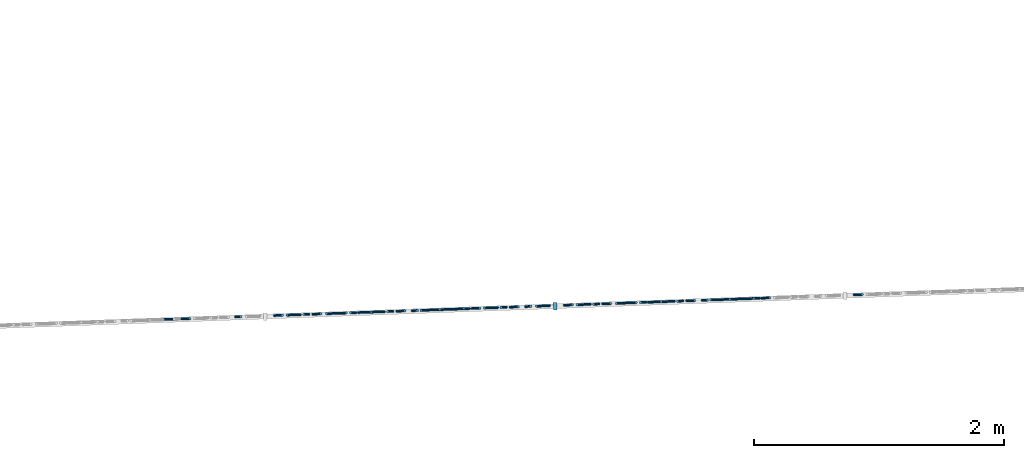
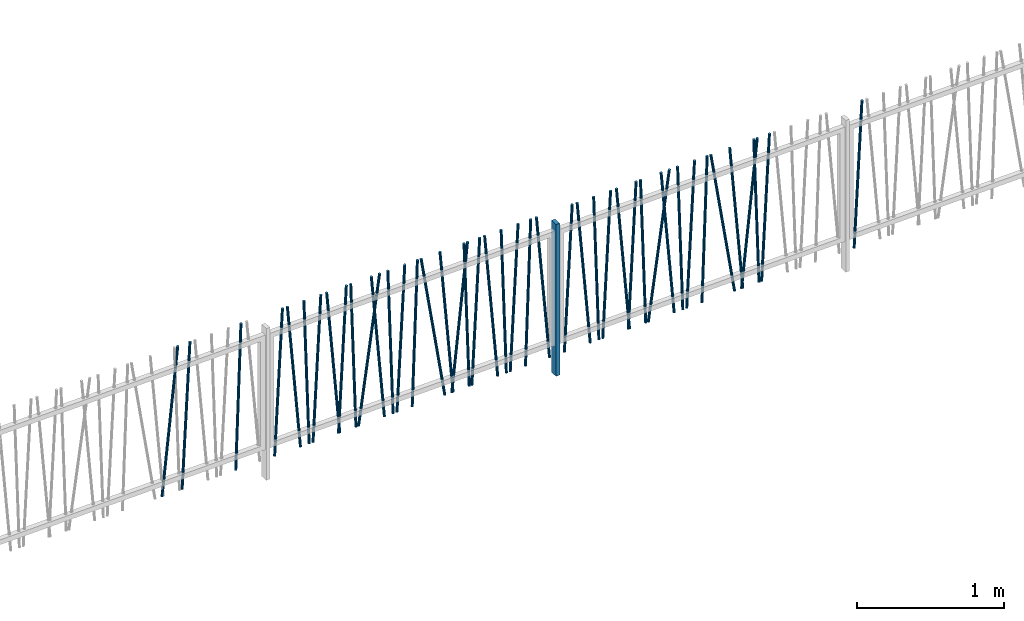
# One storey, part 7 of 171: 44 columns.
"""IFC2X3 building model written with IfcOpenShell, lengths in millimetres."""

from ifc_helpers import new_model, entity, si_unit, converted_unit, derived_unit, money_unit, direction, frame, origin_with_axes, origin_2d_with_axis, place, context, subcontext, project, spatial, rectangle, circle, extrude, clip, halfspace, material, type_object, element, save


model = new_model("IFC2X3")

# Units and contexts
model_context = context("Model", 3, precision=0.01, world=origin_with_axes(), true_north=direction((0.0, 1.0)))
body_context = subcontext(model_context, "Body", "Model", "MODEL_VIEW")
ifc_project = project(units=[si_unit("LENGTHUNIT", "METRE", prefix="MILLI"), si_unit("AREAUNIT", "SQUARE_METRE"), si_unit("VOLUMEUNIT", "CUBIC_METRE"), converted_unit("PLANEANGLEUNIT", "DEGREE", entity("IfcPlaneAngleMeasure", 0.0174532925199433), si_unit("PLANEANGLEUNIT", "RADIAN"), dimensions=[0, 0, 0, 0, 0, 0, 0]), money_unit("USD"), converted_unit("TIMEUNIT", "Year", entity("IfcTimeMeasure", 31557600.0), si_unit("TIMEUNIT", "SECOND"), dimensions=[0, 0, 1, 0, 0, 0, 0]), si_unit("MASSUNIT", "GRAM", prefix="KILO"), si_unit("THERMODYNAMICTEMPERATUREUNIT", "DEGREE_CELSIUS"), si_unit("LUMINOUSINTENSITYUNIT", "LUMEN"), si_unit("ENERGYUNIT", "JOULE", prefix="MEGA"), derived_unit("THERMALCONDUCTANCEUNIT", [(si_unit("POWERUNIT", "WATT"), 1), (si_unit("LENGTHUNIT", "METRE"), -1), (si_unit("THERMODYNAMICTEMPERATUREUNIT", "KELVIN"), -1)]), derived_unit("SPECIFICHEATCAPACITYUNIT", [(si_unit("ENERGYUNIT", "JOULE"), 1), (si_unit("MASSUNIT", "GRAM", prefix="KILO"), -1), (si_unit("THERMODYNAMICTEMPERATUREUNIT", "KELVIN"), -1)]), derived_unit("MASSDENSITYUNIT", [(si_unit("MASSUNIT", "GRAM", prefix="KILO"), 1), (si_unit("VOLUMEUNIT", "CUBIC_METRE"), -1)])], contexts=[model_context])

# Site, building, storey
site_placement = place(None, origin_with_axes())
site = spatial("IfcSite", under=ifc_project, at=site_placement, Name="Site", CompositionType="ELEMENT")
building_placement = place(site_placement, origin_with_axes())
building = spatial("IfcBuilding", under=site, at=building_placement, Name="Bâtiment", CompositionType="ELEMENT")
storey_placement = place(building_placement, frame((0.0, 0.0, 3000.0), z_axis=(0.0, 0.0, 1.0), x_axis=(1.0, 0.0, 0.0)))
storey = spatial("IfcBuildingStorey", under=building, at=storey_placement, Name="rdc", CompositionType="ELEMENT", Elevation=3000.0)

# Columns
ifc_material = material(Name="Empty Fill 2959611567")
column_type_1 = type_object("IfcColumnType", Name="Empty Fill 2959611567 D20", PredefinedType="NOTDEFINED")
for number, where, z_axis, x_axis, name in (
    (1, (2239512.348801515, -667343.6094439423, -1950.0), (0.0, 0.0, 1.0), (0.03567989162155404, -0.9993632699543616, 0.0), "Pilier-019"),
    (2, (2238770.654105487, -667370.0898912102, -1950.0), (0.0, 0.0, 1.0), (0.03567989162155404, -0.9993632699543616, 0.0), "Pilier-019"),
):
    element("IfcColumn", number, at=place(storey_placement, frame(where, z_axis=z_axis, x_axis=x_axis)), inside=storey, type_object=column_type_1, material=ifc_material, Name=name, context=body_context, shape_type="Clipping", body=[
        clip(clip(extrude(circle(Radius=10.0, at=origin_2d_with_axis()), frame((0.0, -0.05485622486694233, -1.046719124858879), z_axis=(0.0, -0.05233595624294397, -0.9986295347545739), x_axis=(-1.0, 0.0, 0.0)), (0.0, 0.0, -1.0), 1203.743126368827), halfspace(frame((0.0, 0.0, 0.0), z_axis=(0.0, 0.0, 1.0), x_axis=(0.0, -1.0, 0.0)), True)), halfspace(frame((0.0, 0.0, 1200.0), z_axis=(0.0, 0.0, -1.0), x_axis=(0.0, 1.0, 0.0)), True)),
    ])
column_1_placement = place(storey_placement, frame((2238749.533185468, -667370.843963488, -1950.0), z_axis=(0.0, 0.0, 1.0), x_axis=(-0.03567989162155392, 0.9993632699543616, 0.0)))
element("IfcColumn", 3, at=column_1_placement, inside=storey, type_object=column_type_1, material=ifc_material, Name="Pilier-019", context=body_context, shape_type="Clipping", body=[
    clip(clip(extrude(circle(Radius=10.0, at=origin_2d_with_axis()), frame((0.0, -0.02437434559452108, -0.6979899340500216), z_axis=(0.0, 0.03489949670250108, 0.9993908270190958), x_axis=(1.0, 0.0, 0.0)), (0.0, 0.0, 1.0), 1202.128283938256), halfspace(frame((0.0, 0.0, 0.0), z_axis=(0.0, 0.0, 1.0), x_axis=(0.0, -1.0, 0.0)), True)), halfspace(frame((0.0, 0.0, 1200.0), z_axis=(0.0, 0.0, -1.0), x_axis=(0.0, 1.0, 0.0)), True)),
])
column_2_placement = place(storey_placement, frame((2238609.804605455, -667375.8326405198, -1950.0), z_axis=(0.0, 0.0, 1.0), x_axis=(0.03567989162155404, -0.9993632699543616, 0.0)))
element("IfcColumn", 4, at=column_2_placement, inside=storey, type_object=column_type_1, material=ifc_material, Name="Pilier-019", context=body_context, shape_type="Clipping", body=[
    clip(clip(extrude(circle(Radius=10.0, at=origin_2d_with_axis()), frame((0.0, -0.2197276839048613, -2.090569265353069), z_axis=(0.0, -0.1045284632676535, -0.9945218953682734), x_axis=(-1.0, 0.0, 0.0)), (0.0, 0.0, -1.0), 1210.814104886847), halfspace(frame((0.0, 0.0, 0.0), z_axis=(0.0, 0.0, 1.0), x_axis=(0.0, -1.0, 0.0)), True)), halfspace(frame((0.0, 0.0, 1200.0), z_axis=(0.0, 0.0, -1.0), x_axis=(0.0, 1.0, 0.0)), True)),
])
column_3_placement = place(storey_placement, frame((2237862.367878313, -667402.5180933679, -1950.0), z_axis=(0.0, 0.0, 1.0), x_axis=(0.03567989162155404, -0.9993632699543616, 0.0)))
element("IfcColumn", 5, at=column_3_placement, inside=storey, type_object=column_type_1, material=ifc_material, Name="Pilier-019", context=body_context, shape_type="Clipping", body=[
    clip(clip(extrude(circle(Radius=10.0, at=origin_2d_with_axis()), frame((0.0, -0.3911900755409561, -2.78346201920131), z_axis=(0.0, -0.1391731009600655, -0.9902680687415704), x_axis=(-1.0, 0.0, 0.0)), (0.0, 0.0, -1.0), 1217.414720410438), halfspace(frame((0.0, 0.0, 0.0), z_axis=(0.0, 0.0, 1.0), x_axis=(0.0, -1.0, 0.0)), True)), halfspace(frame((0.0, 0.0, 1200.0), z_axis=(0.0, 0.0, -1.0), x_axis=(0.0, 1.0, 0.0)), True)),
])
column_4_placement = place(storey_placement, frame((2238069.376391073, -667395.127346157, -1950.0), z_axis=(0.0, 0.0, 1.0), x_axis=(-0.03567989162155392, 0.9993632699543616, 0.0)))
element("IfcColumn", 6, at=column_4_placement, inside=storey, type_object=column_type_1, material=ifc_material, Name="Pilier-019", context=body_context, shape_type="Clipping", body=[
    clip(clip(extrude(circle(Radius=10.0, at=origin_2d_with_axis()), frame((0.0, -0.152502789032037, -1.743114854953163), z_axis=(0.0, 0.08715574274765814, 0.9961946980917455), x_axis=(1.0, 0.0, 0.0)), (0.0, 0.0, 1.0), 1208.083351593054), halfspace(frame((0.0, 0.0, 0.0), z_axis=(0.0, 0.0, 1.0), x_axis=(0.0, -1.0, 0.0)), True)), halfspace(frame((0.0, 0.0, 1200.0), z_axis=(0.0, 0.0, -1.0), x_axis=(0.0, 1.0, 0.0)), True)),
])
column_5_placement = place(storey_placement, frame((2237465.789511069, -667416.6769819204, -1950.0), z_axis=(0.0, 0.0, 1.0), x_axis=(-0.03567989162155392, 0.9993632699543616, 0.0)))
element("IfcColumn", 7, at=column_5_placement, inside=storey, type_object=column_type_1, material=ifc_material, Name="Pilier-019", context=body_context, shape_type="Clipping", body=[
    clip(clip(extrude(circle(Radius=10.0, at=origin_2d_with_axis()), frame((0.0, -0.02437434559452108, -0.6979899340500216), z_axis=(0.0, 0.03489949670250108, 0.9993908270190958), x_axis=(1.0, 0.0, 0.0)), (0.0, 0.0, 1.0), 1202.128283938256), halfspace(frame((0.0, 0.0, 0.0), z_axis=(0.0, 0.0, 1.0), x_axis=(0.0, -1.0, 0.0)), True)), halfspace(frame((0.0, 0.0, 1200.0), z_axis=(0.0, 0.0, -1.0), x_axis=(0.0, 1.0, 0.0)), True)),
])
column_6_placement = place(storey_placement, frame((2237711.416712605, -667407.9074461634, -1950.0), z_axis=(0.0, 0.0, 1.0), x_axis=(-0.03567989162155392, 0.9993632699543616, 0.0)))
element("IfcColumn", 8, at=column_6_placement, inside=storey, type_object=column_type_1, material=ifc_material, Name="Pilier-019", context=body_context, shape_type="Clipping", body=[
    clip(clip(extrude(circle(Radius=10.0, at=origin_2d_with_axis()), frame((0.0, -0.152502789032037, -1.743114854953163), z_axis=(0.0, 0.08715574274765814, 0.9961946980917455), x_axis=(1.0, 0.0, 0.0)), (0.0, 0.0, 1.0), 1208.083351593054), halfspace(frame((0.0, 0.0, 0.0), z_axis=(0.0, 0.0, 1.0), x_axis=(0.0, -1.0, 0.0)), True)), halfspace(frame((0.0, 0.0, 1200.0), z_axis=(0.0, 0.0, -1.0), x_axis=(0.0, 1.0, 0.0)), True)),
])
column_7_placement = place(storey_placement, frame((2237497.062739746, -667415.5604455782, -1950.0), z_axis=(0.0, 0.0, 1.0), x_axis=(0.03567989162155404, -0.9993632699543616, 0.0)))
element("IfcColumn", 9, at=column_7_placement, inside=storey, type_object=column_type_1, material=ifc_material, Name="Pilier-019", context=body_context, shape_type="Clipping", body=[
    clip(clip(extrude(circle(Radius=10.0, at=origin_2d_with_axis()), frame((0.0, -0.05485622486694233, -1.046719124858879), z_axis=(0.0, -0.05233595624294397, -0.9986295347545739), x_axis=(-1.0, 0.0, 0.0)), (0.0, 0.0, -1.0), 1203.743126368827), halfspace(frame((0.0, 0.0, 0.0), z_axis=(0.0, 0.0, 1.0), x_axis=(0.0, -1.0, 0.0)), True)), halfspace(frame((0.0, 0.0, 1200.0), z_axis=(0.0, 0.0, -1.0), x_axis=(0.0, 1.0, 0.0)), True)),
])
column_8_placement = place(storey_placement, frame((2237396.36939395, -667419.1554622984, -1950.0), z_axis=(0.0, 0.0, 1.0), x_axis=(-0.03567989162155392, 0.9993632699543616, 0.0)))
element("IfcColumn", 10, at=column_8_placement, inside=storey, type_object=column_type_1, material=ifc_material, Name="Pilier-019", context=body_context, shape_type="Clipping", body=[
    clip(clip(extrude(circle(Radius=10.0, at=origin_2d_with_axis()), frame((0.0, -0.152502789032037, -1.743114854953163), z_axis=(0.0, 0.08715574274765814, 0.9961946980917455), x_axis=(1.0, 0.0, 0.0)), (0.0, 0.0, 1.0), 1208.083351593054), halfspace(frame((0.0, 0.0, 0.0), z_axis=(0.0, 0.0, 1.0), x_axis=(0.0, -1.0, 0.0)), True)), halfspace(frame((0.0, 0.0, 1200.0), z_axis=(0.0, 0.0, -1.0), x_axis=(0.0, 1.0, 0.0)), True)),
])
column_9_placement = place(storey_placement, frame((2238170.069736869, -667391.532329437, -1950.0), z_axis=(0.0, 0.0, 1.0), x_axis=(0.03567989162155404, -0.9993632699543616, 0.0)))
element("IfcColumn", 11, at=column_9_placement, inside=storey, type_object=column_type_1, material=ifc_material, Name="Pilier-019", context=body_context, shape_type="Clipping", body=[
    clip(clip(extrude(circle(Radius=10.0, at=origin_2d_with_axis()), frame((0.0, -0.05485622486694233, -1.046719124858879), z_axis=(0.0, -0.05233595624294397, -0.9986295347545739), x_axis=(-1.0, 0.0, 0.0)), (0.0, 0.0, -1.0), 1203.743126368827), halfspace(frame((0.0, 0.0, 0.0), z_axis=(0.0, 0.0, 1.0), x_axis=(0.0, -1.0, 0.0)), True)), halfspace(frame((0.0, 0.0, 1200.0), z_axis=(0.0, 0.0, -1.0), x_axis=(0.0, 1.0, 0.0)), True)),
])
column_10_placement = place(storey_placement, frame((2237841.246958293, -667403.2721656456, -1950.0), z_axis=(0.0, 0.0, 1.0), x_axis=(-0.03567989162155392, 0.9993632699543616, 0.0)))
element("IfcColumn", 12, at=column_10_placement, inside=storey, type_object=column_type_1, material=ifc_material, Name="Pilier-019", context=body_context, shape_type="Clipping", body=[
    clip(clip(extrude(circle(Radius=10.0, at=origin_2d_with_axis()), frame((0.0, -0.02437434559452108, -0.6979899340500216), z_axis=(0.0, 0.03489949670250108, 0.9993908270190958), x_axis=(1.0, 0.0, 0.0)), (0.0, 0.0, 1.0), 1202.128283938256), halfspace(frame((0.0, 0.0, 0.0), z_axis=(0.0, 0.0, 1.0), x_axis=(0.0, -1.0, 0.0)), True)), halfspace(frame((0.0, 0.0, 1200.0), z_axis=(0.0, 0.0, -1.0), x_axis=(0.0, 1.0, 0.0)), True)),
])
column_11_placement = place(storey_placement, frame((2238553.496617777, -667377.8429834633, -1950.0), z_axis=(0.0, 0.0, 1.0), x_axis=(-0.03567989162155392, 0.9993632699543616, 0.0)))
element("IfcColumn", 13, at=column_11_placement, inside=storey, type_object=column_type_1, material=ifc_material, Name="Pilier-019", context=body_context, shape_type="Clipping", body=[
    clip(clip(extrude(circle(Radius=10.0, at=origin_2d_with_axis()), frame((0.0, -0.4955357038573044, -3.128689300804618), z_axis=(0.0, 0.1564344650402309, 0.9876883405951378), x_axis=(1.0, 0.0, 0.0)), (0.0, 0.0, 1.0), 1221.293528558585), halfspace(frame((0.0, 0.0, 0.0), z_axis=(0.0, 0.0, 1.0), x_axis=(0.0, -1.0, 0.0)), True)), halfspace(frame((0.0, 0.0, 1200.0), z_axis=(0.0, 0.0, -1.0), x_axis=(0.0, 1.0, 0.0)), True)),
])
column_12_placement = place(storey_placement, frame((2238292.324812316, -667387.1675023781, -1950.0), z_axis=(0.0, 0.0, 1.0), x_axis=(0.03567989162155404, -0.9993632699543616, 0.0)))
element("IfcColumn", 14, at=column_12_placement, inside=storey, type_object=column_type_1, material=ifc_material, Name="Pilier-019", context=body_context, shape_type="Clipping", body=[
    clip(clip(extrude(circle(Radius=10.0, at=origin_2d_with_axis()), frame((0.0, -0.02437434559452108, -0.6979899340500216), z_axis=(0.0, -0.03489949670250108, -0.9993908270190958), x_axis=(-1.0, 0.0, 0.0)), (0.0, 0.0, -1.0), 1202.128283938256), halfspace(frame((0.0, 0.0, 0.0), z_axis=(0.0, 0.0, 1.0), x_axis=(0.0, -1.0, 0.0)), True)), halfspace(frame((0.0, 0.0, 1200.0), z_axis=(0.0, 0.0, -1.0), x_axis=(0.0, 1.0, 0.0)), True)),
])
column_13_placement = place(storey_placement, frame((2238138.796508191, -667392.6488657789, -1950.0), z_axis=(0.0, 0.0, 1.0), x_axis=(-0.03567989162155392, 0.9993632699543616, 0.0)))
element("IfcColumn", 15, at=column_13_placement, inside=storey, type_object=column_type_1, material=ifc_material, Name="Pilier-019", context=body_context, shape_type="Clipping", body=[
    clip(clip(extrude(circle(Radius=10.0, at=origin_2d_with_axis()), frame((0.0, -0.02437434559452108, -0.6979899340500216), z_axis=(0.0, 0.03489949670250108, 0.9993908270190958), x_axis=(1.0, 0.0, 0.0)), (0.0, 0.0, 1.0), 1202.128283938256), halfspace(frame((0.0, 0.0, 0.0), z_axis=(0.0, 0.0, 1.0), x_axis=(0.0, -1.0, 0.0)), True)), halfspace(frame((0.0, 0.0, 1200.0), z_axis=(0.0, 0.0, -1.0), x_axis=(0.0, 1.0, 0.0)), True)),
])
column_14_placement = place(storey_placement, frame((2238619.702939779, -667375.4792440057, -1950.0), z_axis=(0.0, 0.0, 1.0), x_axis=(-0.03567989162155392, 0.9993632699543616, 0.0)))
element("IfcColumn", 16, at=column_14_placement, inside=storey, type_object=column_type_1, material=ifc_material, Name="Pilier-019", context=body_context, shape_type="Clipping", body=[
    clip(clip(extrude(circle(Radius=10.0, at=origin_2d_with_axis()), frame((0.0, -0.152502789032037, -1.743114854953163), z_axis=(0.0, 0.08715574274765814, 0.9961946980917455), x_axis=(1.0, 0.0, 0.0)), (0.0, 0.0, 1.0), 1208.083351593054), halfspace(frame((0.0, 0.0, 0.0), z_axis=(0.0, 0.0, 1.0), x_axis=(0.0, -1.0, 0.0)), True)), halfspace(frame((0.0, 0.0, 1200.0), z_axis=(0.0, 0.0, -1.0), x_axis=(0.0, 1.0, 0.0)), True)),
])
for number, where, z_axis, x_axis, name in (
    (17, (2234866.372960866, -667509.4829750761, -1950.0), (0.0, 0.0, 1.0), (0.03567989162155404, -0.9993632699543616, 0.0), "Pilier-019"),
    (18, (2237701.518378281, -667408.2608426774, -1950.0), (0.0, 0.0, 1.0), (0.03567989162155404, -0.9993632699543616, 0.0), "Pilier-019"),
    (19, (2237189.360881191, -667426.5462095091, -1950.0), (0.0, 0.0, 1.0), (0.03567989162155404, -0.9993632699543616, 0.0), "Pilier-019"),
):
    element("IfcColumn", number, at=place(storey_placement, frame(where, z_axis=z_axis, x_axis=x_axis)), inside=storey, type_object=column_type_1, material=ifc_material, Name=name, context=body_context, shape_type="Clipping", body=[
        clip(clip(extrude(circle(Radius=10.0, at=origin_2d_with_axis()), frame((0.0, -0.05485622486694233, -1.046719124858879), z_axis=(0.0, -0.05233595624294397, -0.9986295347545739), x_axis=(-1.0, 0.0, 0.0)), (0.0, 0.0, -1.0), 1203.743126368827), halfspace(frame((0.0, 0.0, 0.0), z_axis=(0.0, 0.0, 1.0), x_axis=(0.0, -1.0, 0.0)), True)), halfspace(frame((0.0, 0.0, 1200.0), z_axis=(0.0, 0.0, -1.0), x_axis=(0.0, 1.0, 0.0)), True)),
    ])
column_15_placement = place(storey_placement, frame((2236426.545265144, -667453.7807290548, -1950.0), z_axis=(0.0, 0.0, 1.0), x_axis=(-0.03567989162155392, 0.9993632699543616, 0.0)))
element("IfcColumn", 20, at=column_15_placement, inside=storey, type_object=column_type_1, material=ifc_material, Name="Pilier-019", context=body_context, shape_type="Clipping", body=[
    clip(clip(extrude(circle(Radius=10.0, at=origin_2d_with_axis()), frame((0.0, -0.02437434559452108, -0.6979899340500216), z_axis=(0.0, 0.03489949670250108, 0.9993908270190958), x_axis=(1.0, 0.0, 0.0)), (0.0, 0.0, 1.0), 1202.128283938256), halfspace(frame((0.0, 0.0, 0.0), z_axis=(0.0, 0.0, 1.0), x_axis=(0.0, -1.0, 0.0)), True)), halfspace(frame((0.0, 0.0, 1200.0), z_axis=(0.0, 0.0, -1.0), x_axis=(0.0, 1.0, 0.0)), True)),
])
column_16_placement = place(storey_placement, frame((2236447.666185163, -667453.026656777, -1950.0), z_axis=(0.0, 0.0, 1.0), x_axis=(0.03567989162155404, -0.9993632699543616, 0.0)))
element("IfcColumn", 21, at=column_16_placement, inside=storey, type_object=column_type_1, material=ifc_material, Name="Pilier-019", context=body_context, shape_type="Clipping", body=[
    clip(clip(extrude(circle(Radius=10.0, at=origin_2d_with_axis()), frame((0.0, -0.05485622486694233, -1.046719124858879), z_axis=(0.0, -0.05233595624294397, -0.9986295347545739), x_axis=(-1.0, 0.0, 0.0)), (0.0, 0.0, -1.0), 1203.743126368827), halfspace(frame((0.0, 0.0, 0.0), z_axis=(0.0, 0.0, 1.0), x_axis=(0.0, -1.0, 0.0)), True)), halfspace(frame((0.0, 0.0, 1200.0), z_axis=(0.0, 0.0, -1.0), x_axis=(0.0, 1.0, 0.0)), True)),
])
column_17_placement = place(storey_placement, frame((2236877.623119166, -667437.6760657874, -1950.0), z_axis=(0.0, 0.0, 1.0), x_axis=(0.03567989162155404, -0.9993632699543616, 0.0)))
element("IfcColumn", 22, at=column_17_placement, inside=storey, type_object=column_type_1, material=ifc_material, Name="Pilier-019", context=body_context, shape_type="Clipping", body=[
    clip(clip(extrude(circle(Radius=10.0, at=origin_2d_with_axis()), frame((0.0, -0.02437434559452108, -0.6979899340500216), z_axis=(0.0, -0.03489949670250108, -0.9993908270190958), x_axis=(-1.0, 0.0, 0.0)), (0.0, 0.0, -1.0), 1202.128283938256), halfspace(frame((0.0, 0.0, 0.0), z_axis=(0.0, 0.0, 1.0), x_axis=(0.0, -1.0, 0.0)), True)), halfspace(frame((0.0, 0.0, 1200.0), z_axis=(0.0, 0.0, -1.0), x_axis=(0.0, 1.0, 0.0)), True)),
])
column_18_placement = place(storey_placement, frame((2236724.094815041, -667443.1574291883, -1950.0), z_axis=(0.0, 0.0, 1.0), x_axis=(-0.03567989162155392, 0.9993632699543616, 0.0)))
element("IfcColumn", 23, at=column_18_placement, inside=storey, type_object=column_type_1, material=ifc_material, Name="Pilier-019", context=body_context, shape_type="Clipping", body=[
    clip(clip(extrude(circle(Radius=10.0, at=origin_2d_with_axis()), frame((0.0, -0.02437434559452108, -0.6979899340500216), z_axis=(0.0, 0.03489949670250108, 0.9993908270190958), x_axis=(1.0, 0.0, 0.0)), (0.0, 0.0, 1.0), 1202.128283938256), halfspace(frame((0.0, 0.0, 0.0), z_axis=(0.0, 0.0, 1.0), x_axis=(0.0, -1.0, 0.0)), True)), halfspace(frame((0.0, 0.0, 1200.0), z_axis=(0.0, 0.0, -1.0), x_axis=(0.0, 1.0, 0.0)), True)),
])
column_19_placement = place(storey_placement, frame((2236654.674697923, -667445.6359095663, -1950.0), z_axis=(0.0, 0.0, 1.0), x_axis=(-0.03567989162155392, 0.9993632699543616, 0.0)))
element("IfcColumn", 24, at=column_19_placement, inside=storey, type_object=column_type_1, material=ifc_material, Name="Pilier-019", context=body_context, shape_type="Clipping", body=[
    clip(clip(extrude(circle(Radius=10.0, at=origin_2d_with_axis()), frame((0.0, -0.152502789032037, -1.743114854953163), z_axis=(0.0, 0.08715574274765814, 0.9961946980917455), x_axis=(1.0, 0.0, 0.0)), (0.0, 0.0, 1.0), 1208.083351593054), halfspace(frame((0.0, 0.0, 0.0), z_axis=(0.0, 0.0, 1.0), x_axis=(0.0, -1.0, 0.0)), True)), halfspace(frame((0.0, 0.0, 1200.0), z_axis=(0.0, 0.0, -1.0), x_axis=(0.0, 1.0, 0.0)), True)),
])
column_20_placement = place(storey_placement, frame((2236755.368043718, -667442.0408928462, -1950.0), z_axis=(0.0, 0.0, 1.0), x_axis=(0.03567989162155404, -0.9993632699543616, 0.0)))
element("IfcColumn", 25, at=column_20_placement, inside=storey, type_object=column_type_1, material=ifc_material, Name="Pilier-019", context=body_context, shape_type="Clipping", body=[
    clip(clip(extrude(circle(Radius=10.0, at=origin_2d_with_axis()), frame((0.0, -0.05485622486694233, -1.046719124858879), z_axis=(0.0, -0.05233595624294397, -0.9986295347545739), x_axis=(-1.0, 0.0, 0.0)), (0.0, 0.0, -1.0), 1203.743126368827), halfspace(frame((0.0, 0.0, 0.0), z_axis=(0.0, 0.0, 1.0), x_axis=(0.0, -1.0, 0.0)), True)), halfspace(frame((0.0, 0.0, 1200.0), z_axis=(0.0, 0.0, -1.0), x_axis=(0.0, 1.0, 0.0)), True)),
])
column_21_placement = place(storey_placement, frame((2235539.379957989, -667485.4548589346, -1950.0), z_axis=(0.0, 0.0, 1.0), x_axis=(0.03567989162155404, -0.9993632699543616, 0.0)))
element("IfcColumn", 26, at=column_21_placement, inside=storey, type_object=column_type_1, material=ifc_material, Name="Pilier-019", context=body_context, shape_type="Clipping", body=[
    clip(clip(extrude(circle(Radius=10.0, at=origin_2d_with_axis()), frame((0.0, -0.3911900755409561, -2.78346201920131), z_axis=(0.0, -0.1391731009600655, -0.9902680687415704), x_axis=(-1.0, 0.0, 0.0)), (0.0, 0.0, -1.0), 1217.414720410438), halfspace(frame((0.0, 0.0, 0.0), z_axis=(0.0, 0.0, 1.0), x_axis=(0.0, -1.0, 0.0)), True)), halfspace(frame((0.0, 0.0, 1200.0), z_axis=(0.0, 0.0, -1.0), x_axis=(0.0, 1.0, 0.0)), True)),
])
column_22_placement = place(storey_placement, frame((2235073.381473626, -667502.0922278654, -1950.0), z_axis=(0.0, 0.0, 1.0), x_axis=(-0.03567989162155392, 0.9993632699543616, 0.0)))
element("IfcColumn", 27, at=column_22_placement, inside=storey, type_object=column_type_1, material=ifc_material, Name="Pilier-019", context=body_context, shape_type="Clipping", body=[
    clip(clip(extrude(circle(Radius=10.0, at=origin_2d_with_axis()), frame((0.0, -0.152502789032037, -1.743114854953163), z_axis=(0.0, 0.08715574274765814, 0.9961946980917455), x_axis=(1.0, 0.0, 0.0)), (0.0, 0.0, 1.0), 1208.083351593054), halfspace(frame((0.0, 0.0, 0.0), z_axis=(0.0, 0.0, 1.0), x_axis=(0.0, -1.0, 0.0)), True)), halfspace(frame((0.0, 0.0, 1200.0), z_axis=(0.0, 0.0, -1.0), x_axis=(0.0, 1.0, 0.0)), True)),
])
column_23_placement = place(storey_placement, frame((2236286.816685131, -667458.7694060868, -1950.0), z_axis=(0.0, 0.0, 1.0), x_axis=(0.03567989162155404, -0.9993632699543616, 0.0)))
element("IfcColumn", 28, at=column_23_placement, inside=storey, type_object=column_type_1, material=ifc_material, Name="Pilier-019", context=body_context, shape_type="Clipping", body=[
    clip(clip(extrude(circle(Radius=10.0, at=origin_2d_with_axis()), frame((0.0, -0.2197276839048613, -2.090569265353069), z_axis=(0.0, -0.1045284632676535, -0.9945218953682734), x_axis=(-1.0, 0.0, 0.0)), (0.0, 0.0, -1.0), 1210.814104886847), halfspace(frame((0.0, 0.0, 0.0), z_axis=(0.0, 0.0, 1.0), x_axis=(0.0, -1.0, 0.0)), True)), halfspace(frame((0.0, 0.0, 1200.0), z_axis=(0.0, 0.0, -1.0), x_axis=(0.0, 1.0, 0.0)), True)),
])
for number, where, z_axis, x_axis, name in (
    (29, (2235746.388470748, -667478.0641117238, -1950.0), (0.0, 0.0, 1.0), (-0.03567989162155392, 0.9993632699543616, 0.0), "Pilier-019"),
    (30, (2237070.092403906, -667430.804407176, -1950.0), (0.0, 0.0, 1.0), (-0.03567989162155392, 0.9993632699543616, 0.0), "Pilier-019"),
    (31, (2235388.428792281, -667490.8442117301, -1950.0), (0.0, 0.0, 1.0), (-0.03567989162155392, 0.9993632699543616, 0.0), "Pilier-019"),
):
    element("IfcColumn", number, at=place(storey_placement, frame(where, z_axis=z_axis, x_axis=x_axis)), inside=storey, type_object=column_type_1, material=ifc_material, Name=name, context=body_context, shape_type="Clipping", body=[
        clip(clip(extrude(circle(Radius=10.0, at=origin_2d_with_axis()), frame((0.0, -0.152502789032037, -1.743114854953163), z_axis=(0.0, 0.08715574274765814, 0.9961946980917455), x_axis=(1.0, 0.0, 0.0)), (0.0, 0.0, 1.0), 1208.083351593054), halfspace(frame((0.0, 0.0, 0.0), z_axis=(0.0, 0.0, 1.0), x_axis=(0.0, -1.0, 0.0)), True)), halfspace(frame((0.0, 0.0, 1200.0), z_axis=(0.0, 0.0, -1.0), x_axis=(0.0, 1.0, 0.0)), True)),
    ])
column_24_placement = place(storey_placement, frame((2235174.074819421, -667498.497211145, -1950.0), z_axis=(0.0, 0.0, 1.0), x_axis=(0.03567989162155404, -0.9993632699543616, 0.0)))
element("IfcColumn", 32, at=column_24_placement, inside=storey, type_object=column_type_1, material=ifc_material, Name="Pilier-019", context=body_context, shape_type="Clipping", body=[
    clip(clip(extrude(circle(Radius=10.0, at=origin_2d_with_axis()), frame((0.0, -0.05485622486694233, -1.046719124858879), z_axis=(0.0, -0.05233595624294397, -0.9986295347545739), x_axis=(-1.0, 0.0, 0.0)), (0.0, 0.0, -1.0), 1203.743126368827), halfspace(frame((0.0, 0.0, 0.0), z_axis=(0.0, 0.0, 1.0), x_axis=(0.0, -1.0, 0.0)), True)), halfspace(frame((0.0, 0.0, 1200.0), z_axis=(0.0, 0.0, -1.0), x_axis=(0.0, 1.0, 0.0)), True)),
])
column_25_placement = place(storey_placement, frame((2236296.715019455, -667458.4160095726, -1950.0), z_axis=(0.0, 0.0, 1.0), x_axis=(-0.03567989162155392, 0.9993632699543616, 0.0)))
element("IfcColumn", 33, at=column_25_placement, inside=storey, type_object=column_type_1, material=ifc_material, Name="Pilier-019", context=body_context, shape_type="Clipping", body=[
    clip(clip(extrude(circle(Radius=10.0, at=origin_2d_with_axis()), frame((0.0, -0.152502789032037, -1.743114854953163), z_axis=(0.0, 0.08715574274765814, 0.9961946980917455), x_axis=(1.0, 0.0, 0.0)), (0.0, 0.0, 1.0), 1208.083351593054), halfspace(frame((0.0, 0.0, 0.0), z_axis=(0.0, 0.0, 1.0), x_axis=(0.0, -1.0, 0.0)), True)), halfspace(frame((0.0, 0.0, 1200.0), z_axis=(0.0, 0.0, -1.0), x_axis=(0.0, 1.0, 0.0)), True)),
])
column_26_placement = place(storey_placement, frame((2236230.508697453, -667460.7797490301, -1950.0), z_axis=(0.0, 0.0, 1.0), x_axis=(-0.03567989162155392, 0.9993632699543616, 0.0)))
element("IfcColumn", 34, at=column_26_placement, inside=storey, type_object=column_type_1, material=ifc_material, Name="Pilier-019", context=body_context, shape_type="Clipping", body=[
    clip(clip(extrude(circle(Radius=10.0, at=origin_2d_with_axis()), frame((0.0, -0.4955357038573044, -3.128689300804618), z_axis=(0.0, 0.1564344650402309, 0.9876883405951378), x_axis=(1.0, 0.0, 0.0)), (0.0, 0.0, 1.0), 1221.293528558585), halfspace(frame((0.0, 0.0, 0.0), z_axis=(0.0, 0.0, 1.0), x_axis=(0.0, -1.0, 0.0)), True)), halfspace(frame((0.0, 0.0, 1200.0), z_axis=(0.0, 0.0, -1.0), x_axis=(0.0, 1.0, 0.0)), True)),
])
column_27_placement = place(storey_placement, frame((2235847.081816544, -667474.4690950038, -1950.0), z_axis=(0.0, 0.0, 1.0), x_axis=(0.03567989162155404, -0.9993632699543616, 0.0)))
element("IfcColumn", 35, at=column_27_placement, inside=storey, type_object=column_type_1, material=ifc_material, Name="Pilier-019", context=body_context, shape_type="Clipping", body=[
    clip(clip(extrude(circle(Radius=10.0, at=origin_2d_with_axis()), frame((0.0, -0.05485622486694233, -1.046719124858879), z_axis=(0.0, -0.05233595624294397, -0.9986295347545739), x_axis=(-1.0, 0.0, 0.0)), (0.0, 0.0, -1.0), 1203.743126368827), halfspace(frame((0.0, 0.0, 0.0), z_axis=(0.0, 0.0, 1.0), x_axis=(0.0, -1.0, 0.0)), True)), halfspace(frame((0.0, 0.0, 1200.0), z_axis=(0.0, 0.0, -1.0), x_axis=(0.0, 1.0, 0.0)), True)),
])
for number, where, z_axis, x_axis, name in (
    (36, (2235142.801590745, -667499.6137474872, -1950.0), (0.0, 0.0, 1.0), (-0.03567989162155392, 0.9993632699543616, 0.0), "Pilier-019"),
    (37, (2235518.25903797, -667486.2089312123, -1950.0), (0.0, 0.0, 1.0), (-0.03567989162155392, 0.9993632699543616, 0.0), "Pilier-019"),
    (38, (2235815.808587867, -667475.5856313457, -1950.0), (0.0, 0.0, 1.0), (-0.03567989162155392, 0.9993632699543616, 0.0), "Pilier-019"),
):
    element("IfcColumn", number, at=place(storey_placement, frame(where, z_axis=z_axis, x_axis=x_axis)), inside=storey, type_object=column_type_1, material=ifc_material, Name=name, context=body_context, shape_type="Clipping", body=[
        clip(clip(extrude(circle(Radius=10.0, at=origin_2d_with_axis()), frame((0.0, -0.02437434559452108, -0.6979899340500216), z_axis=(0.0, 0.03489949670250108, 0.9993908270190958), x_axis=(1.0, 0.0, 0.0)), (0.0, 0.0, 1.0), 1202.128283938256), halfspace(frame((0.0, 0.0, 0.0), z_axis=(0.0, 0.0, 1.0), x_axis=(0.0, -1.0, 0.0)), True)), halfspace(frame((0.0, 0.0, 1200.0), z_axis=(0.0, 0.0, -1.0), x_axis=(0.0, 1.0, 0.0)), True)),
    ])
column_28_placement = place(storey_placement, frame((2235969.336891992, -667470.1042679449, -1950.0), z_axis=(0.0, 0.0, 1.0), x_axis=(0.03567989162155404, -0.9993632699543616, 0.0)))
element("IfcColumn", 39, at=column_28_placement, inside=storey, type_object=column_type_1, material=ifc_material, Name="Pilier-019", context=body_context, shape_type="Clipping", body=[
    clip(clip(extrude(circle(Radius=10.0, at=origin_2d_with_axis()), frame((0.0, -0.02437434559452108, -0.6979899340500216), z_axis=(0.0, -0.03489949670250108, -0.9993908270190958), x_axis=(-1.0, 0.0, 0.0)), (0.0, 0.0, -1.0), 1202.128283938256), halfspace(frame((0.0, 0.0, 0.0), z_axis=(0.0, 0.0, 1.0), x_axis=(0.0, -1.0, 0.0)), True)), halfspace(frame((0.0, 0.0, 1200.0), z_axis=(0.0, 0.0, -1.0), x_axis=(0.0, 1.0, 0.0)), True)),
])
column_29_placement = place(storey_placement, frame((2235378.530457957, -667491.1976082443, -1950.0), z_axis=(0.0, 0.0, 1.0), x_axis=(0.03567989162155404, -0.9993632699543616, 0.0)))
element("IfcColumn", 40, at=column_29_placement, inside=storey, type_object=column_type_1, material=ifc_material, Name="Pilier-019", context=body_context, shape_type="Clipping", body=[
    clip(clip(extrude(circle(Radius=10.0, at=origin_2d_with_axis()), frame((0.0, -0.05485622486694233, -1.046719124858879), z_axis=(0.0, -0.05233595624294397, -0.9986295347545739), x_axis=(-1.0, 0.0, 0.0)), (0.0, 0.0, -1.0), 1203.743126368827), halfspace(frame((0.0, 0.0, 0.0), z_axis=(0.0, 0.0, 1.0), x_axis=(0.0, -1.0, 0.0)), True)), halfspace(frame((0.0, 0.0, 1200.0), z_axis=(0.0, 0.0, -1.0), x_axis=(0.0, 1.0, 0.0)), True)),
])
column_30_placement = place(storey_placement, frame((2233963.828764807, -667541.7061716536, -1950.0), z_axis=(0.0, 0.0, 1.0), x_axis=(0.03567989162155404, -0.9993632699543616, 0.0)))
element("IfcColumn", 41, at=column_30_placement, inside=storey, type_object=column_type_1, material=ifc_material, Name="Pilier-019", context=body_context, shape_type="Clipping", body=[
    clip(clip(extrude(circle(Radius=10.0, at=origin_2d_with_axis()), frame((0.0, -0.2197276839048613, -2.090569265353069), z_axis=(0.0, -0.1045284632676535, -0.9945218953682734), x_axis=(-1.0, 0.0, 0.0)), (0.0, 0.0, -1.0), 1210.814104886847), halfspace(frame((0.0, 0.0, 0.0), z_axis=(0.0, 0.0, 1.0), x_axis=(0.0, -1.0, 0.0)), True)), halfspace(frame((0.0, 0.0, 1200.0), z_axis=(0.0, 0.0, -1.0), x_axis=(0.0, 1.0, 0.0)), True)),
])
column_31_placement = place(storey_placement, frame((2234124.678264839, -667535.963422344, -1950.0), z_axis=(0.0, 0.0, 1.0), x_axis=(0.03567989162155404, -0.9993632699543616, 0.0)))
element("IfcColumn", 42, at=column_31_placement, inside=storey, type_object=column_type_1, material=ifc_material, Name="Pilier-019", context=body_context, shape_type="Clipping", body=[
    clip(clip(extrude(circle(Radius=10.0, at=origin_2d_with_axis()), frame((0.0, -0.05485622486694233, -1.046719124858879), z_axis=(0.0, -0.05233595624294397, -0.9986295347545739), x_axis=(-1.0, 0.0, 0.0)), (0.0, 0.0, -1.0), 1203.743126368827), halfspace(frame((0.0, 0.0, 0.0), z_axis=(0.0, 0.0, 1.0), x_axis=(0.0, -1.0, 0.0)), True)), halfspace(frame((0.0, 0.0, 1200.0), z_axis=(0.0, 0.0, -1.0), x_axis=(0.0, 1.0, 0.0)), True)),
])
column_32_placement = place(storey_placement, frame((2234554.635198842, -667520.6128313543, -1950.0), z_axis=(0.0, 0.0, 1.0), x_axis=(0.03567989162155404, -0.9993632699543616, 0.0)))
element("IfcColumn", 43, at=column_32_placement, inside=storey, type_object=column_type_1, material=ifc_material, Name="Pilier-019", context=body_context, shape_type="Clipping", body=[
    clip(clip(extrude(circle(Radius=10.0, at=origin_2d_with_axis()), frame((0.0, -0.02437434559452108, -0.6979899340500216), z_axis=(0.0, -0.03489949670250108, -0.9993908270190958), x_axis=(-1.0, 0.0, 0.0)), (0.0, 0.0, -1.0), 1202.128283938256), halfspace(frame((0.0, 0.0, 0.0), z_axis=(0.0, 0.0, 1.0), x_axis=(0.0, -1.0, 0.0)), True)), halfspace(frame((0.0, 0.0, 1200.0), z_axis=(0.0, 0.0, -1.0), x_axis=(0.0, 1.0, 0.0)), True)),
])
column_type_2 = type_object("IfcColumnType", Name="Empty Fill 2959611567 30 x 60", PredefinedType="NOTDEFINED")
column_33_placement = place(storey_placement, frame((2237115.131716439, -667435.2263882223, -2100.0), z_axis=(0.0, 0.0, 1.0), x_axis=(0.9993632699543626, 0.03567989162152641, 0.0)))
element("IfcColumn", 44, at=column_33_placement, inside=storey, type_object=column_type_2, material=ifc_material, Name="Pilier-019", context=body_context, shape_type="SweptSolid", body=[
    extrude(rectangle(XDim=30.0, YDim=60.0, at=origin_2d_with_axis()), origin_with_axes(), (0.0, 0.0, 1.0), 1260.0),
])

save(model, "model.ifc")
